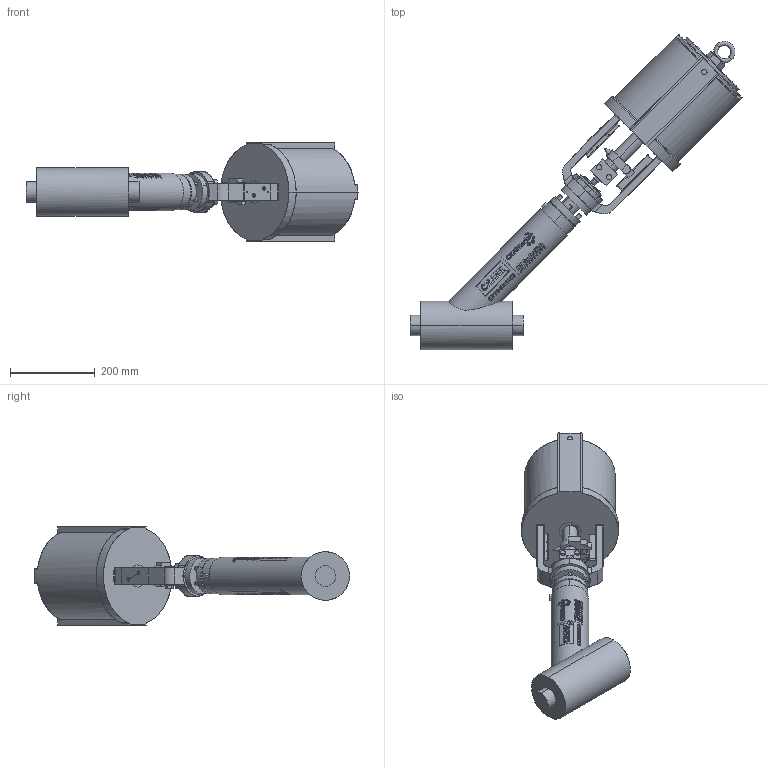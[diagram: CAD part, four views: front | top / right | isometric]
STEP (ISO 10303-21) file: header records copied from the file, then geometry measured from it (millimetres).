
FILE_DESCRIPTION (( 'STEP AP203' ), '1' );
FILE_NAME ('1.5IN Y-PATTERN PNEUMATIC CRANE BELLOWS SEAL VALVE.step', '2025-12-17T20:06:00', ( '' ), ( '' ), 'SwSTEP 2.0', 'SolidWorks 2023', '' );
FILE_SCHEMA (( 'CONFIG_CONTROL_DESIGN' ));
Products named in the file (1): 1.5IN Y-PATTERN PNEUMATIC CRANE BELLOWS SEAL VALVE
Bounding box: 783.42 x 743.58 x 231.65 mm (x, y, z)
Surface area: 915131.5 mm2 (no closed solid volume)
Topology: 0 solids, 3 shells, 1995 faces, 5294 edges, 3422 vertices
Faces by surface type: plane 961, cylinder 676, bspline 190, torus 92, cone 42, sphere 34
Full cylindrical faces by diameter (mm): 1.195 x2, 1.309 x2, 1.422 x2, 1.631 x2, 1.842 x2, 2.373 x2, 2.456 x2, 2.727 x2, 2.906 x2, 3.046 x2, 3.207 x2, 3.658 x2, 4.941 x2, 6.104 x2, 7.386 x2, 8.599 x2, 88.9 x1
Entity records: 127941 total; most frequent: CARTESIAN_POINT 86541, ORIENTED_EDGE 10325, DIRECTION 5808, EDGE_CURVE 5206, VERTEX_POINT 3421, B_SPLINE_CURVE_WITH_KNOTS 2563, EDGE_LOOP 2276, AXIS2_PLACEMENT_3D 2138
